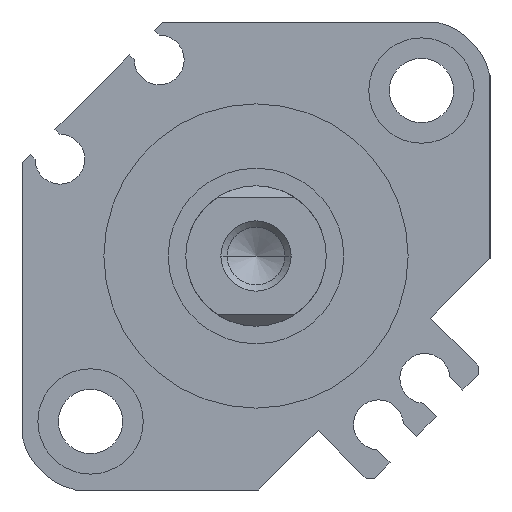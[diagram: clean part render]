
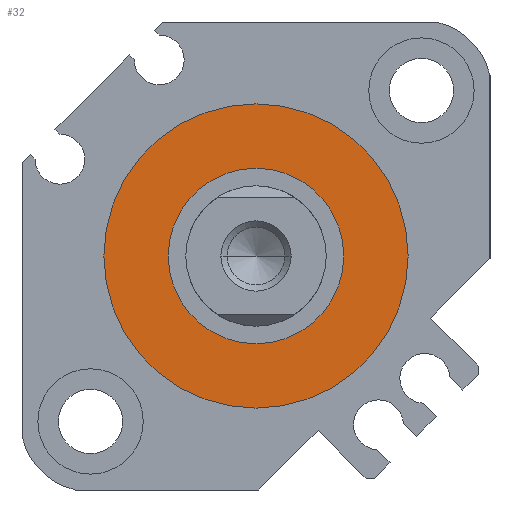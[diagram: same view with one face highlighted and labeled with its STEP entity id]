
A CAD part, left-side view. The second image highlights one B-rep face of the part: STEP entity #32.
In plain terms, the highlighted planar face has unit normal (-1, 0, 0).
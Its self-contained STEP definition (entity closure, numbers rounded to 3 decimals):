
#25 = VERTEX_POINT ( 'NONE', #2939 ) ;
#32 = ADVANCED_FACE ( 'NONE', ( #50, #849 ), #1913, .F. ) ;
#50 = FACE_OUTER_BOUND ( 'NONE', #2797, .T. ) ;
#169 = CARTESIAN_POINT ( 'NONE',  ( 1.9, 0., 7.5 ) ) ;
#211 = DIRECTION ( 'NONE',  ( 1., 0., 0. ) ) ;
#297 = CARTESIAN_POINT ( 'NONE',  ( 1.9, 0., 0. ) ) ;
#318 = VERTEX_POINT ( 'NONE', #3121 ) ;
#424 = ORIENTED_EDGE ( 'NONE', *, *, #1208, .T. ) ;
#477 = VERTEX_POINT ( 'NONE', #2374 ) ;
#652 = AXIS2_PLACEMENT_3D ( 'NONE', #870, #1937, #2742 ) ;
#666 = CARTESIAN_POINT ( 'NONE',  ( 1.9, 0., 0. ) ) ;
#705 = DIRECTION ( 'NONE',  ( 1., 0., 0. ) ) ;
#731 = CARTESIAN_POINT ( 'NONE',  ( 1.9, 0., 0. ) ) ;
#747 = ORIENTED_EDGE ( 'NONE', *, *, #2445, .F. ) ;
#792 = AXIS2_PLACEMENT_3D ( 'NONE', #666, #3030, #1682 ) ;
#849 = FACE_BOUND ( 'NONE', #3088, .T. ) ;
#870 = CARTESIAN_POINT ( 'NONE',  ( 1.9, 0., 0. ) ) ;
#978 = ORIENTED_EDGE ( 'NONE', *, *, #3384, .T. ) ;
#996 = CIRCLE ( 'NONE', #3371, 13. ) ;
#998 = DIRECTION ( 'NONE',  ( 0., 0., -1. ) ) ;
#1072 = AXIS2_PLACEMENT_3D ( 'NONE', #297, #1091, #2155 ) ;
#1091 = DIRECTION ( 'NONE',  ( 1., 0., 0. ) ) ;
#1208 = EDGE_CURVE ( 'NONE', #2683, #25, #2053, .T. ) ;
#1682 = DIRECTION ( 'NONE',  ( 0., 0., -1. ) ) ;
#1913 = PLANE ( 'NONE',  #1072 ) ;
#1937 = DIRECTION ( 'NONE',  ( 1., 0., 0. ) ) ;
#2053 = CIRCLE ( 'NONE', #652, 7.5 ) ;
#2155 = DIRECTION ( 'NONE',  ( 0., 1., 0. ) ) ;
#2293 = CIRCLE ( 'NONE', #792, 13. ) ;
#2374 = CARTESIAN_POINT ( 'NONE',  ( 1.9, 0., 13. ) ) ;
#2445 = EDGE_CURVE ( 'NONE', #318, #477, #2293, .T. ) ;
#2683 = VERTEX_POINT ( 'NONE', #169 ) ;
#2742 = DIRECTION ( 'NONE',  ( 0., 0., -1. ) ) ;
#2797 = EDGE_LOOP ( 'NONE', ( #2942, #747 ) ) ;
#2939 = CARTESIAN_POINT ( 'NONE',  ( 1.9, 0., -7.5 ) ) ;
#2942 = ORIENTED_EDGE ( 'NONE', *, *, #3234, .F. ) ;
#3030 = DIRECTION ( 'NONE',  ( 1., 0., 0. ) ) ;
#3088 = EDGE_LOOP ( 'NONE', ( #424, #978 ) ) ;
#3121 = CARTESIAN_POINT ( 'NONE',  ( 1.9, 0., -13. ) ) ;
#3208 = AXIS2_PLACEMENT_3D ( 'NONE', #731, #211, #3420 ) ;
#3234 = EDGE_CURVE ( 'NONE', #477, #318, #996, .T. ) ;
#3320 = CARTESIAN_POINT ( 'NONE',  ( 1.9, 0., 0. ) ) ;
#3371 = AXIS2_PLACEMENT_3D ( 'NONE', #3320, #705, #998 ) ;
#3374 = CIRCLE ( 'NONE', #3208, 7.5 ) ;
#3384 = EDGE_CURVE ( 'NONE', #25, #2683, #3374, .T. ) ;
#3420 = DIRECTION ( 'NONE',  ( 0., 0., -1. ) ) ;
